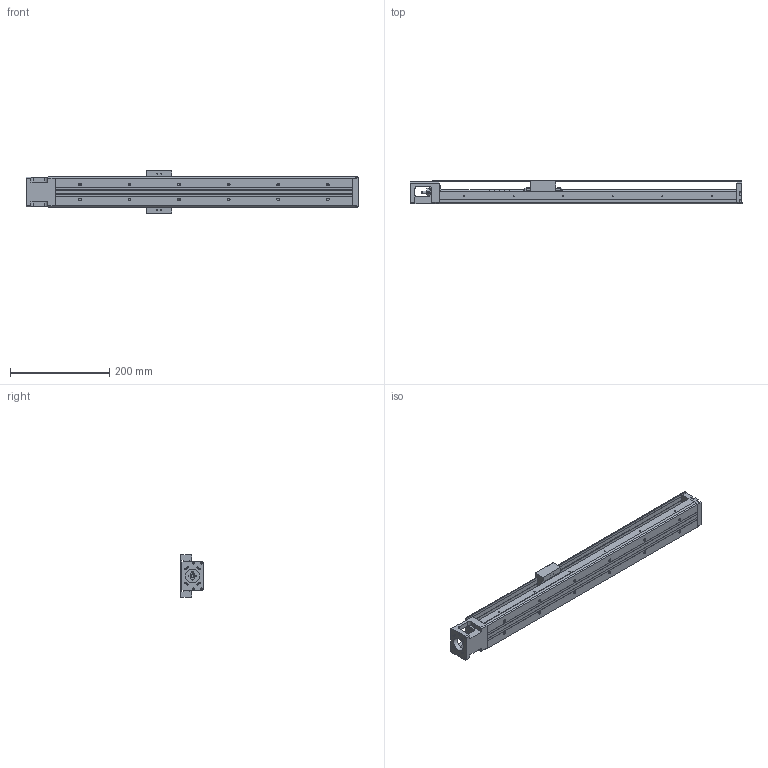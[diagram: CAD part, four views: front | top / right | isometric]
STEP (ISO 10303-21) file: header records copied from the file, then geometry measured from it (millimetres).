
FILE_DESCRIPTION(/* description */ (''),/* implementation_level */ '2;1');
FILE_NAME(/* name */ 'KP33N-600-C.stp',/* time_stamp */ '2020-06-04T17:34:13+08:00',/* author */ (''),/* organization */ (''),/* preprocessor_version */ 'ST-DEVELOPER v14',/* originating_system */ 'SIEMENS PLM Software NX 8.0',/* authorisation */ '');
FILE_SCHEMA (('AUTOMOTIVE_DESIGN { 1 0 10303 214 3 1 1 1 }'));
Products named in the file (1): model1
Bounding box: 670 x 47.95 x 86 mm (x, y, z)
Volume: 980114.8 mm3; surface area: 336459.3 mm2
Topology: 10 solids, 24 shells, 1186 faces, 2972 edges, 1968 vertices
Faces by surface type: plane 746, cylinder 312, extrusion 39, bspline 37, cone 32, torus 16, revolution 4
Full cylindrical faces by diameter (mm): 1.6 x10, 1.65 x8, 2.15 x6, 2.42 x8, 2.45 x10, 2.5 x28, 3 x6, 3.2 x4, 3.3 x4, 3.4 x6, 3.5 x14, 3.969 x2, 4 x12, 4.001 x2, 4.135 x8, 4.2 x8, 5.5 x12, 6 x9, 7.6 x1, 8 x6, 9.5 x12, 10.72 x6, 11.8 x4, 12 x6, 12.8 x1, 13 x4, 14 x1, 17.38 x6, 21.5 x1, 22 x4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
Entity records: 52409 total; most frequent: CARTESIAN_POINT 19440, DIRECTION 5438, ORIENTED_EDGE 5136, EDGE_CURVE 2568, AXIS2_PLACEMENT_3D 1890, VERTEX_POINT 1834, EDGE_LOOP 1686, VECTOR 1654
